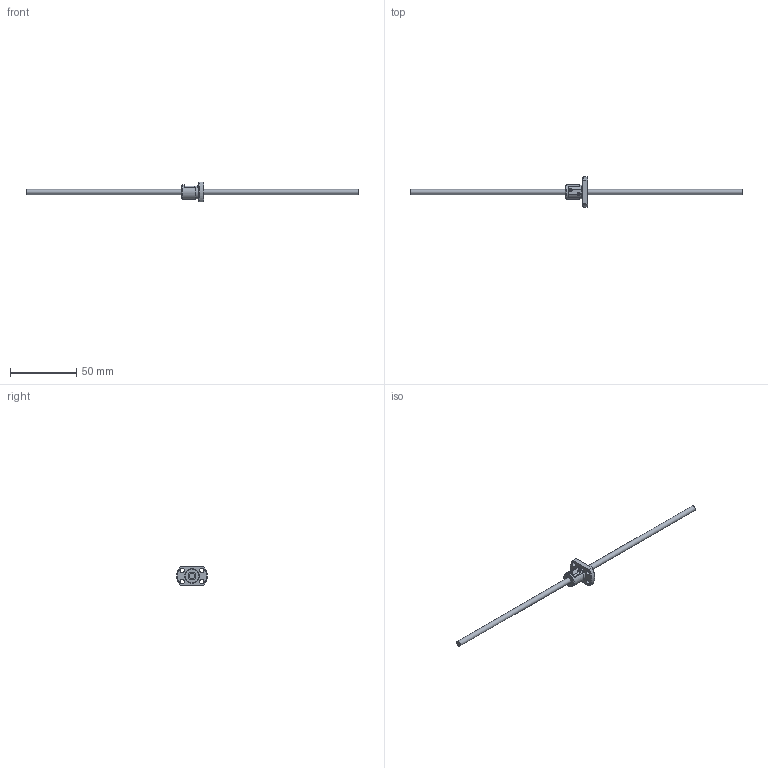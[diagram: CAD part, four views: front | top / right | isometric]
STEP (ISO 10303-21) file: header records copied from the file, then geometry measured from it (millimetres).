
FILE_DESCRIPTION( ( 'STEP AP214' ), ' ' );
FILE_NAME( 'p:/temp/worker_4/1548_2664/app_43_12015091121491645028840260eae72_000000_00_00_000000/format_0/SR0401-250R250C7(117).stp', '2015-09-11T19:49:18', ( '' ), ( '' ), ' ', 'PARTsolutions', ' ' );
FILE_SCHEMA( ( 'AUTOMOTIVE_DESIGN { 1 0 10303 214 1 1 1 1 }' ) );
Length unit declared in the file: millimetre
Products named in the file (3): SR0401-250R250C7(117); _SR0401(117)_shaft; _SR0401C7_nut
Assembly tree (2 placements, depth 2):
  SR0401-250R250C7(117)
    _SR0401(117)_shaft
    _SR0401C7_nut
Bounding box: 250 x 22.93 x 15 mm (x, y, z)
Volume: 5170.7 mm3; surface area: 4823.4 mm2
Topology: 2 solids, 2 shells, 46 faces, 115 edges, 76 vertices
Faces by surface type: plane 25, cylinder 16, cone 5
Full cylindrical faces by diameter (mm): 2.4 x2, 3.4 x4, 4 x2, 6 x2, 10.5 x1, 11 x1
Entity records: 1750 total; most frequent: CARTESIAN_POINT 267, DIRECTION 230, ORIENTED_EDGE 194, EDGE_CURVE 97, AXIS2_PLACEMENT_3D 94, EDGE_LOOP 72, VERTEX_POINT 71, FACE_OUTER_BOUND 58
